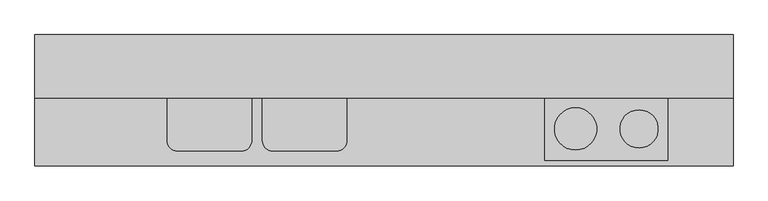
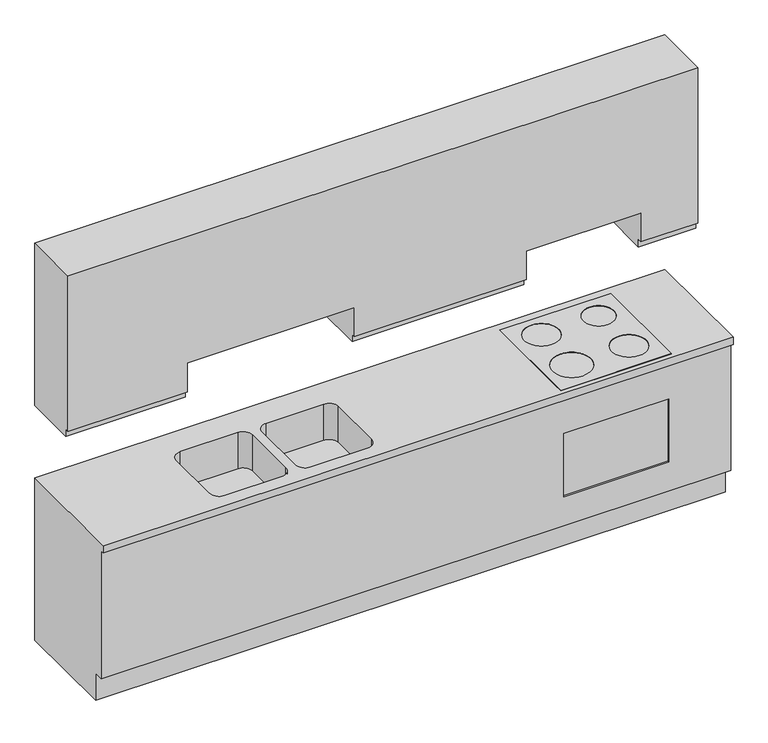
"""IFC4 building model written with IfcOpenShell, lengths in millimetres: furniture geometry, NL_73_aanrechtblok : met bovenkastjes."""

from ifc_helpers import new_model, si_unit, point, frame, frame_2d, origin, place, context, project, spatial, polyline, circle_curve, trimmed, segment, composite_curve, outline, extrude, faceted_brep, source, transform, mapped, element, save
from ifc_brep_helpers import plane_surface, revolved_surface, advanced_brep


def furniture_b0f7cb87(model_context):
    return source(origin(), model_context, "Body", "SolidModel", [
        extrude(outline(polyline([(1076.8453046, -45.3694609), (1076.8453046, -595.3694609), (496.8453046, -595.3694609), (496.8453046, -45.3694609), (1076.8453046, -45.3694609)]), holes=[composite_curve([segment(trimmed(circle_curve(frame_2d((641.8453046, -170.3694609)), 90.0), [point((641.8453046, -80.3694609))], [point((641.8453046, -260.3694609))], True, "CARTESIAN"), True, "CONTINUOUS"), segment(trimmed(circle_curve(frame_2d((641.8453046, -170.3694609)), 90.0), [point((641.8453046, -260.3694609))], [point((641.8453046, -80.3694609))], True, "CARTESIAN"), True, "CONTINUOUS")], self_intersect=False), composite_curve([segment(trimmed(circle_curve(frame_2d((941.8453046, -170.3694609)), 80.0), [point((941.8453046, -90.3694609))], [point((941.8453046, -250.3694609))], True, "CARTESIAN"), True, "CONTINUOUS"), segment(trimmed(circle_curve(frame_2d((941.8453046, -170.3694609)), 80.0), [point((941.8453046, -250.3694609))], [point((941.8453046, -90.3694609))], True, "CARTESIAN"), True, "CONTINUOUS")], self_intersect=False), composite_curve([segment(trimmed(circle_curve(frame_2d((641.8453046, -445.3694609)), 100.0), [point((641.8453046, -345.3694609))], [point((641.8453046, -545.3694609))], True, "CARTESIAN"), True, "CONTINUOUS"), segment(trimmed(circle_curve(frame_2d((641.8453046, -445.3694609)), 100.0), [point((641.8453046, -545.3694609))], [point((641.8453046, -345.3694609))], True, "CARTESIAN"), True, "CONTINUOUS")], self_intersect=False), composite_curve([segment(trimmed(circle_curve(frame_2d((941.8453046, -445.3694609)), 90.0), [point((941.8453046, -355.3694609))], [point((941.8453046, -535.3694609))], True, "CARTESIAN"), True, "CONTINUOUS"), segment(trimmed(circle_curve(frame_2d((941.8453046, -445.3694609)), 90.0), [point((941.8453046, -535.3694609))], [point((941.8453046, -355.3694609))], True, "CARTESIAN"), True, "CONTINUOUS")], self_intersect=False)]), frame((0.0, 0.0, 900.0), z_axis=(0.0, 0.0, 1.0), x_axis=(1.0, 0.0, 0.0)), (0.0, 0.0, 1.0), 2.0),
        advanced_brep(
        [(-1913.5686582, -550.0, 0.0), (-1913.5686582, -550.0, 150.0), (-1913.5686582, -600.0, 150.0), (-1913.5686582, -600.0, 860.0), (-1913.5686582, -620.0, 860.0), (-1913.5686582, -620.0, 900.0), (-1913.5686582, 0.0, 900.0), (-1913.5686582, 0.0, 0.0), (1386.4313418, -550.0, 0.0), (1386.4313418, 0.0, 0.0), (1386.4313418, 0.0, 900.0), (1386.4313418, -620.0, 900.0), (1386.4313418, -620.0, 860.0), (1386.4313418, -600.0, 860.0), (1386.4313418, -600.0, 150.0), (1386.4313418, -550.0, 150.0), (1061.4313418, -600.0, 660.0), (1061.4313418, -600.0, 310.0), (511.4313418, -600.0, 310.0), (511.4313418, -600.0, 660.0), (-1238.5686582, -150.0, 900.0), (-938.5686582, -150.0, 900.0), (-888.5686582, -200.0, 900.0), (-888.5686582, -500.0, 900.0), (-938.5686582, -550.0, 900.0), (-1238.5686582, -550.0, 900.0), (-1288.5686582, -500.0, 900.0), (-1288.5686582, -200.0, 900.0), (-788.5686582, -150.0, 900.0), (-488.5686582, -150.0, 900.0), (-438.5686582, -200.0, 900.0), (-438.5686582, -500.0, 900.0), (-488.5686582, -550.0, 900.0), (-788.5686582, -550.0, 900.0), (-838.5686582, -500.0, 900.0), (-838.5686582, -200.0, 900.0), (-938.5686582, -150.0, 700.0), (-1238.5686582, -150.0, 700.0), (-1288.5686582, -200.0, 700.0), (-1288.5686582, -500.0, 700.0), (-1238.5686582, -550.0, 700.0), (-938.5686582, -550.0, 700.0), (-888.5686582, -500.0, 700.0), (-888.5686582, -200.0, 700.0), (-488.5686582, -150.0, 700.0), (-788.5686582, -150.0, 700.0), (-838.5686582, -200.0, 700.0), (-838.5686582, -500.0, 700.0), (-788.5686582, -550.0, 700.0), (-488.5686582, -550.0, 700.0), (-438.5686582, -500.0, 700.0), (-438.5686582, -200.0, 700.0), (1061.4313418, -590.0, 660.0), (511.4313418, -590.0, 660.0), (511.4313418, -590.0, 310.0), (1061.4313418, -590.0, 310.0)],
        [
            (0, 1),
            (1, 2),
            (2, 3),
            (3, 4),
            (4, 5),
            (5, 6),
            (6, 7),
            (7, 0),
            (8, 9),
            (9, 10),
            (10, 11),
            (11, 12),
            (12, 13),
            (13, 14),
            (14, 15),
            (15, 8),
            (0, 8),
            (15, 1),
            (14, 2),
            (13, 3),
            (16, 17),
            (17, 18),
            (18, 19),
            (19, 16),
            (12, 4),
            (11, 5),
            (10, 6),
            (20, 21),
            (21, 22, circle_curve(frame((-938.5686582, -200.0, 900.0), z_axis=(0.0, 0.0, -1.0), x_axis=(0.0, -1.0, 0.0)), 50.0)),
            (22, 23),
            (23, 24, circle_curve(frame((-938.5686582, -500.0, 900.0), z_axis=(0.0, 0.0, -1.0), x_axis=(0.0, -1.0, 0.0)), 50.0)),
            (24, 25),
            (25, 26, circle_curve(frame((-1238.5686582, -500.0, 900.0), z_axis=(0.0, 0.0, -1.0), x_axis=(0.0, -1.0, 0.0)), 50.0)),
            (26, 27),
            (27, 20, circle_curve(frame((-1238.5686582, -200.0, 900.0), z_axis=(0.0, 0.0, -1.0), x_axis=(0.0, -1.0, 0.0)), 50.0)),
            (28, 29),
            (29, 30, circle_curve(frame((-488.5686582, -200.0, 900.0), z_axis=(0.0, 0.0, -1.0), x_axis=(0.0, -1.0, 0.0)), 50.0)),
            (30, 31),
            (31, 32, circle_curve(frame((-488.5686582, -500.0, 900.0), z_axis=(0.0, 0.0, -1.0), x_axis=(0.0, -1.0, 0.0)), 50.0)),
            (32, 33),
            (33, 34, circle_curve(frame((-788.5686582, -500.0, 900.0), z_axis=(0.0, 0.0, -1.0), x_axis=(0.0, -1.0, 0.0)), 50.0)),
            (34, 35),
            (35, 28, circle_curve(frame((-788.5686582, -200.0, 900.0), z_axis=(0.0, 0.0, -1.0), x_axis=(0.0, -1.0, 0.0)), 50.0)),
            (9, 7),
            (36, 37),
            (37, 38, circle_curve(frame((-1238.5686582, -200.0, 700.0), z_axis=(0.0, 0.0, 1.0), x_axis=(0.0, -1.0, 0.0)), 50.0)),
            (38, 39),
            (39, 40, circle_curve(frame((-1238.5686582, -500.0, 700.0), z_axis=(0.0, 0.0, 1.0), x_axis=(0.0, -1.0, 0.0)), 50.0)),
            (40, 41),
            (41, 42, circle_curve(frame((-938.5686582, -500.0, 700.0), z_axis=(0.0, 0.0, 1.0), x_axis=(0.0, -1.0, 0.0)), 50.0)),
            (42, 43),
            (43, 36, circle_curve(frame((-938.5686582, -200.0, 700.0), z_axis=(0.0, 0.0, 1.0), x_axis=(0.0, -1.0, 0.0)), 50.0)),
            (36, 21),
            (20, 37),
            (27, 38),
            (26, 39),
            (25, 40),
            (24, 41),
            (23, 42),
            (22, 43),
            (44, 45),
            (45, 46, circle_curve(frame((-788.5686582, -200.0, 700.0), z_axis=(0.0, 0.0, 1.0), x_axis=(0.0, -1.0, 0.0)), 50.0)),
            (46, 47),
            (47, 48, circle_curve(frame((-788.5686582, -500.0, 700.0), z_axis=(0.0, 0.0, 1.0), x_axis=(0.0, -1.0, 0.0)), 50.0)),
            (48, 49),
            (49, 50, circle_curve(frame((-488.5686582, -500.0, 700.0), z_axis=(0.0, 0.0, 1.0), x_axis=(0.0, -1.0, 0.0)), 50.0)),
            (50, 51),
            (51, 44, circle_curve(frame((-488.5686582, -200.0, 700.0), z_axis=(0.0, 0.0, 1.0), x_axis=(0.0, -1.0, 0.0)), 50.0)),
            (44, 29),
            (28, 45),
            (35, 46),
            (34, 47),
            (33, 48),
            (32, 49),
            (31, 50),
            (30, 51),
            (52, 53),
            (53, 54),
            (54, 55),
            (55, 52),
            (55, 17),
            (16, 52),
            (54, 18),
            (53, 19),
        ],
        [
            plane_surface(frame((-1913.5686582, 0.0, -1092.8860874), z_axis=(-1.0, 0.0, 0.0), x_axis=(0.0, 1.0, 0.0))),
            plane_surface(frame((1386.4313418, 0.0, -1092.8860874), z_axis=(1.0, 0.0, 0.0), x_axis=(0.0, 1.0, 0.0))),
            plane_surface(frame((-1913.5686582, -550.0, 0.0), z_axis=(0.0, -1.0, 0.0), x_axis=(1.0, 0.0, 0.0))),
            plane_surface(frame((-1913.5686582, -550.0, 150.0), z_axis=(0.0, 0.0, -1.0), x_axis=(1.0, 0.0, 0.0))),
            plane_surface(frame((-1913.5686582, -600.0, 150.0), z_axis=(0.0, -1.0, 0.0), x_axis=(1.0, 0.0, 0.0))),
            plane_surface(frame((-1913.5686582, -600.0, 860.0), z_axis=(0.0, 0.0, -1.0), x_axis=(1.0, 0.0, 0.0))),
            plane_surface(frame((-1913.5686582, -620.0, 860.0), z_axis=(0.0, -1.0, 0.0), x_axis=(1.0, 0.0, 0.0))),
            plane_surface(frame((-1913.5686582, -620.0, 900.0), z_axis=(0.0, 0.0, 1.0), x_axis=(1.0, 0.0, 0.0))),
            plane_surface(frame((-1913.5686582, 0.0, 900.0), z_axis=(0.0, 1.0, 0.0), x_axis=(1.0, 0.0, 0.0))),
            plane_surface(frame((-1913.5686582, 0.0, 0.0), z_axis=(0.0, 0.0, -1.0), x_axis=(1.0, 0.0, 0.0))),
            plane_surface(frame((-1238.5686582, -150.0, 700.0), z_axis=(0.0, 0.0, 1.0), x_axis=(1.0, 0.0, 0.0))),
            plane_surface(frame((-938.5686582, -150.0, 900.0), z_axis=(0.0, -1.0, 0.0), x_axis=(0.0, 0.0, -1.0))),
            revolved_surface(polyline([(-1238.5686582, -250.0, 900.0), (-1238.5686582, -250.0, 700.0)]), (-1238.5686582, -200.0, 700.0), (0.0, 0.0, 1.0)),
            plane_surface(frame((-1288.5686582, -200.0, 900.0), z_axis=(1.0, 0.0, 0.0), x_axis=(0.0, 0.0, -1.0))),
            revolved_surface(polyline([(-1238.5686582, -550.0, 900.0), (-1238.5686582, -550.0, 700.0)]), (-1238.5686582, -500.0, 700.0), (0.0, 0.0, 1.0)),
            plane_surface(frame((-1238.5686582, -550.0, 900.0), z_axis=(0.0, 1.0, 0.0), x_axis=(0.0, 0.0, -1.0))),
            revolved_surface(polyline([(-938.5686582, -550.0, 900.0), (-938.5686582, -550.0, 700.0)]), (-938.5686582, -500.0, 700.0), (0.0, 0.0, 1.0)),
            plane_surface(frame((-888.5686582, -500.0, 900.0), z_axis=(-1.0, 0.0, 0.0), x_axis=(0.0, 0.0, -1.0))),
            revolved_surface(polyline([(-938.5686582, -250.0, 900.0), (-938.5686582, -250.0, 700.0)]), (-938.5686582, -200.0, 700.0), (0.0, 0.0, 1.0)),
            plane_surface(frame((-788.5686582, -150.0, 700.0), z_axis=(0.0, 0.0, 1.0), x_axis=(1.0, 0.0, 0.0))),
            plane_surface(frame((-488.5686582, -150.0, 900.0), z_axis=(0.0, -1.0, 0.0), x_axis=(0.0, 0.0, -1.0))),
            revolved_surface(polyline([(-788.5686582, -250.0, 900.0), (-788.5686582, -250.0, 700.0)]), (-788.5686582, -200.0, 700.0), (0.0, 0.0, 1.0)),
            plane_surface(frame((-838.5686582, -200.0, 900.0), z_axis=(1.0, 0.0, 0.0), x_axis=(0.0, 0.0, -1.0))),
            revolved_surface(polyline([(-788.5686582, -550.0, 900.0), (-788.5686582, -550.0, 700.0)]), (-788.5686582, -500.0, 700.0), (0.0, 0.0, 1.0)),
            plane_surface(frame((-788.5686582, -550.0, 900.0), z_axis=(0.0, 1.0, 0.0), x_axis=(0.0, 0.0, -1.0))),
            revolved_surface(polyline([(-488.5686582, -550.0, 900.0), (-488.5686582, -550.0, 700.0)]), (-488.5686582, -500.0, 700.0), (0.0, 0.0, 1.0)),
            plane_surface(frame((-438.5686582, -500.0, 900.0), z_axis=(-1.0, 0.0, 0.0), x_axis=(0.0, 0.0, -1.0))),
            revolved_surface(polyline([(-488.5686582, -250.0, 900.0), (-488.5686582, -250.0, 700.0)]), (-488.5686582, -200.0, 700.0), (0.0, 0.0, 1.0)),
            plane_surface(frame((1061.4313418, -590.0, 660.0), z_axis=(0.0, -1.0, 0.0), x_axis=(0.0, 0.0, -1.0))),
            plane_surface(frame((1061.4313418, -590.0, 660.0), z_axis=(-1.0, 0.0, 0.0), x_axis=(0.0, -1.0, 0.0))),
            plane_surface(frame((1061.4313418, -590.0, 310.0), z_axis=(0.0, 0.0, 1.0), x_axis=(0.0, -1.0, 0.0))),
            plane_surface(frame((511.4313418, -590.0, 310.0), z_axis=(1.0, 0.0, 0.0), x_axis=(0.0, -1.0, 0.0))),
            plane_surface(frame((511.4313418, -590.0, 660.0), z_axis=(0.0, 0.0, -1.0), x_axis=(0.0, -1.0, 0.0))),
        ],
        [
            (0, [[1, 2, 3, 4, 5, 6, 7, 8]]),
            (1, [[9, 10, 11, 12, 13, 14, 15, 16]]),
            (2, [[-1, 17, -16, 18]]),
            (3, [[-2, -18, -15, 19]]),
            (4, [[-3, -19, -14, 20], [21, 22, 23, 24]]),
            (5, [[-4, -20, -13, 25]]),
            (6, [[-5, -25, -12, 26]]),
            (7, [[-6, -26, -11, 27], [28, 29, 30, 31, 32, 33, 34, 35], [36, 37, 38, 39, 40, 41, 42, 43]]),
            (8, [[-7, -27, -10, 44]]),
            (9, [[-8, -44, -9, -17]]),
            (10, [[45, 46, 47, 48, 49, 50, 51, 52]]),
            (11, [[-45, 53, -28, 54]]),
            (12, [[-46, -54, -35, 55]]),
            (13, [[-47, -55, -34, 56]]),
            (14, [[-48, -56, -33, 57]]),
            (15, [[-49, -57, -32, 58]]),
            (16, [[-50, -58, -31, 59]]),
            (17, [[-51, -59, -30, 60]]),
            (18, [[-52, -60, -29, -53]]),
            (19, [[61, 62, 63, 64, 65, 66, 67, 68]]),
            (20, [[-61, 69, -36, 70]]),
            (21, [[-62, -70, -43, 71]]),
            (22, [[-63, -71, -42, 72]]),
            (23, [[-64, -72, -41, 73]]),
            (24, [[-65, -73, -40, 74]]),
            (25, [[-66, -74, -39, 75]]),
            (26, [[-67, -75, -38, 76]]),
            (27, [[-68, -76, -37, -69]]),
            (28, [[77, 78, 79, 80]]),
            (29, [[-80, 81, -21, 82]]),
            (30, [[-79, 83, -22, -81]]),
            (31, [[-78, 84, -23, -83]]),
            (32, [[-77, -82, -24, -84]]),
        ],
    ),
        faceted_brep([(-1913.5686582, -300.0, 2200.0), (-1913.5686582, 0.0, 2200.0), (-1913.5686582, 0.0, 1300.0), (-1913.5686582, -280.0, 1300.0), (-1913.5686582, -280.0, 1340.0), (-1913.5686582, -300.0, 1340.0), (1386.4313418, -300.0, 2200.0), (1386.4313418, -300.0, 1340.0), (1386.4313418, -280.0, 1340.0), (1386.4313418, -280.0, 1300.0), (1386.4313418, 0.0, 1300.0), (1386.4313418, 0.0, 2200.0), (1086.4313418, 0.0, 1300.0), (1086.4313418, 0.0, 1500.0), (486.4313418, 0.0, 1500.0), (486.4313418, 0.0, 1300.0), (-413.5686582, 0.0, 1300.0), (-413.5686582, 0.0, 1500.0), (-1288.5686582, 0.0, 1500.0), (-1288.5686582, 0.0, 1300.0), (-1288.5686582, -280.0, 1300.0), (1086.4313418, -280.0, 1300.0), (-413.5686582, -280.0, 1300.0), (486.4313418, -280.0, 1300.0), (-1288.5686582, -280.0, 1340.0), (1086.4313418, -280.0, 1340.0), (-413.5686582, -280.0, 1340.0), (486.4313418, -280.0, 1340.0), (-1288.5686582, -300.0, 1340.0), (1086.4313418, -300.0, 1340.0), (-413.5686582, -300.0, 1340.0), (486.4313418, -300.0, 1340.0), (-1288.5686582, -300.0, 1500.0), (-413.5686582, -300.0, 1500.0), (486.4313418, -300.0, 1500.0), (1086.4313418, -300.0, 1500.0)], [[[0, 1, 2, 3, 4, 5]], [[6, 7, 8, 9, 10, 11]], [[1, 0, 6, 11]], [[2, 1, 11, 10, 12, 13, 14, 15, 16, 17, 18, 19]], [[3, 2, 19, 20]], [[10, 9, 21, 12]], [[22, 16, 15, 23]], [[4, 3, 20, 24]], [[9, 8, 25, 21]], [[26, 22, 23, 27]], [[5, 4, 24, 28]], [[8, 7, 29, 25]], [[30, 26, 27, 31]], [[0, 5, 28, 32, 33, 30, 31, 34, 35, 29, 7, 6]], [[18, 32, 28, 24, 20, 19]], [[33, 17, 16, 22, 26, 30]], [[32, 18, 17, 33]], [[14, 34, 31, 27, 23, 15]], [[35, 13, 12, 21, 25, 29]], [[34, 14, 13, 35]]]),
    ])


if __name__ == "__main__":
    model = new_model("IFC4")
    model_context = context("Model", 3, world=origin())
    ifc_project = project(units=[si_unit("LENGTHUNIT", "METRE", prefix="MILLI")], contexts=[model_context])
    site = spatial("IfcSite", under=ifc_project)
    building = spatial("IfcBuilding", under=site)
    placement = place(None, origin())
    furniture_shape = furniture_b0f7cb87(model_context)
    element("IfcFurniture", 1, ObjectType="NL_73_aanrechtblok : met bovenkastjes", at=placement, inside=building, context=model_context, shape_type="MappedRepresentation", body=[
        mapped(furniture_shape, transform((0.0, 0.0, 0.0), x_axis=(1.0, 0.0, 0.0), y_axis=(0.0, 1.0, 0.0), z_axis=(0.0, 0.0, 1.0))),
    ])
    save(model, "model.ifc")
